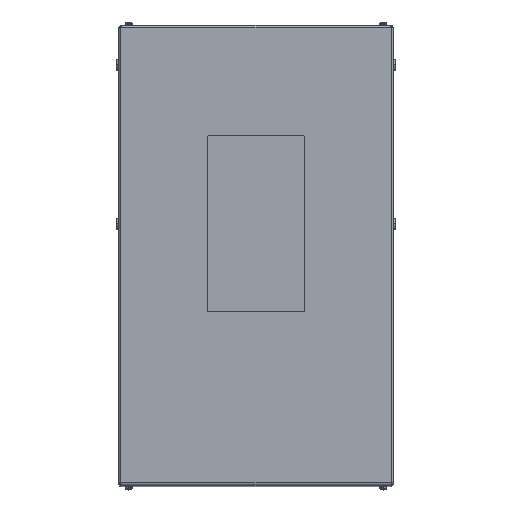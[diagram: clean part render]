
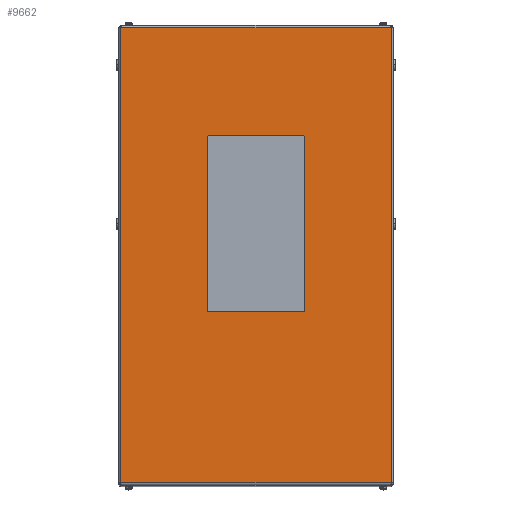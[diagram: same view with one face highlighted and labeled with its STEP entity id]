
A CAD part, top view. The second image highlights one B-rep face of the part: STEP entity #9662.
In plain terms, the highlighted planar face has unit normal (0, 0, 1).
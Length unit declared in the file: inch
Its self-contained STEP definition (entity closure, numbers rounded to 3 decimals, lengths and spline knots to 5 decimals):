
#74 = EDGE_CURVE ( 'NONE', #2713, #4117, #15720, .T. ) ;
#245 = DIRECTION ( 'NONE',  ( 1., 0., 0. ) ) ;
#378 = ORIENTED_EDGE ( 'NONE', *, *, #9704, .T. ) ;
#526 = DIRECTION ( 'NONE',  ( 0., -1., 0. ) ) ;
#574 = CARTESIAN_POINT ( 'NONE',  ( -13.8, 23.234, 33.5 ) ) ;
#759 = CARTESIAN_POINT ( 'NONE',  ( 13.8, 23.234, 33.5 ) ) ;
#955 = CARTESIAN_POINT ( 'NONE',  ( 14., 23.234, 33.5 ) ) ;
#1081 = DIRECTION ( 'NONE',  ( -1., 0., 0. ) ) ;
#1154 = EDGE_CURVE ( 'NONE', #6771, #3223, #2235, .T. ) ;
#1172 = CARTESIAN_POINT ( 'NONE',  ( -5., 12., 33.5 ) ) ;
#1332 = DIRECTION ( 'NONE',  ( 1., 0., 0. ) ) ;
#2008 = DIRECTION ( 'NONE',  ( 0., 0., 1. ) ) ;
#2131 = VECTOR ( 'NONE', #3102, 39.37008 ) ;
#2235 = LINE ( 'NONE', #20782, #6716 ) ;
#2639 = CARTESIAN_POINT ( 'NONE',  ( 5., 12., 33.5 ) ) ;
#2644 = CARTESIAN_POINT ( 'NONE',  ( -13.8, 23.5, 33.5 ) ) ;
#2713 = VERTEX_POINT ( 'NONE', #12707 ) ;
#2860 = EDGE_CURVE ( 'NONE', #19884, #7994, #22520, .T. ) ;
#2968 = VECTOR ( 'NONE', #6964, 39.37008 ) ;
#3102 = DIRECTION ( 'NONE',  ( 0., 1., 0. ) ) ;
#3223 = VERTEX_POINT ( 'NONE', #7868 ) ;
#3239 = CARTESIAN_POINT ( 'NONE',  ( 13.8, -23.234, 33.5 ) ) ;
#3396 = CARTESIAN_POINT ( 'NONE',  ( 5., 12., 33.5 ) ) ;
#4044 = ORIENTED_EDGE ( 'NONE', *, *, #2860, .F. ) ;
#4117 = VERTEX_POINT ( 'NONE', #17507 ) ;
#4365 = EDGE_LOOP ( 'NONE', ( #9410, #15407, #378, #19143 ) ) ;
#4790 = DIRECTION ( 'NONE',  ( 0., 0., -1. ) ) ;
#4809 = ORIENTED_EDGE ( 'NONE', *, *, #1154, .F. ) ;
#5145 = CARTESIAN_POINT ( 'NONE',  ( -4.75, -5.75, 33.5 ) ) ;
#5221 = AXIS2_PLACEMENT_3D ( 'NONE', #14314, #4790, #1081 ) ;
#5918 = DIRECTION ( 'NONE',  ( 0., 0., 1. ) ) ;
#6136 = LINE ( 'NONE', #11632, #9678 ) ;
#6193 = CARTESIAN_POINT ( 'NONE',  ( 5., -5.5, 33.5 ) ) ;
#6421 = CIRCLE ( 'NONE', #9088, 0.25 ) ;
#6716 = VECTOR ( 'NONE', #22577, 39.37008 ) ;
#6771 = VERTEX_POINT ( 'NONE', #15189 ) ;
#6789 = EDGE_CURVE ( 'NONE', #13631, #19428, #6136, .T. ) ;
#6834 = EDGE_CURVE ( 'NONE', #11479, #13631, #22654, .T. ) ;
#6964 = DIRECTION ( 'NONE',  ( 1., 0., 0. ) ) ;
#7066 = AXIS2_PLACEMENT_3D ( 'NONE', #21187, #20840, #1332 ) ;
#7096 = PLANE ( 'NONE',  #5221 ) ;
#7481 = EDGE_CURVE ( 'NONE', #19140, #11479, #15869, .T. ) ;
#7868 = CARTESIAN_POINT ( 'NONE',  ( -4.75, 12.25, 33.5 ) ) ;
#7883 = CIRCLE ( 'NONE', #19614, 0.25 ) ;
#7994 = VERTEX_POINT ( 'NONE', #3396 ) ;
#8725 = EDGE_CURVE ( 'NONE', #12864, #19884, #16910, .T. ) ;
#8801 = ORIENTED_EDGE ( 'NONE', *, *, #20607, .F. ) ;
#8858 = FACE_OUTER_BOUND ( 'NONE', #4365, .T. ) ;
#9088 = AXIS2_PLACEMENT_3D ( 'NONE', #13307, #5918, #15096 ) ;
#9410 = ORIENTED_EDGE ( 'NONE', *, *, #6834, .T. ) ;
#9662 = ADVANCED_FACE ( 'NONE', ( #17412, #8858 ), #7096, .F. ) ;
#9678 = VECTOR ( 'NONE', #20612, 39.37008 ) ;
#9704 = EDGE_CURVE ( 'NONE', #19428, #19140, #21176, .T. ) ;
#10118 = ORIENTED_EDGE ( 'NONE', *, *, #15302, .F. ) ;
#10825 = ORIENTED_EDGE ( 'NONE', *, *, #21974, .F. ) ;
#11184 = VERTEX_POINT ( 'NONE', #1172 ) ;
#11479 = VERTEX_POINT ( 'NONE', #574 ) ;
#11632 = CARTESIAN_POINT ( 'NONE',  ( 13.8, -23.234, 33.5 ) ) ;
#11674 = EDGE_CURVE ( 'NONE', #7994, #6771, #6421, .T. ) ;
#11954 = DIRECTION ( 'NONE',  ( -1., 0., 0. ) ) ;
#12619 = DIRECTION ( 'NONE',  ( 0., -1., 0. ) ) ;
#12640 = EDGE_LOOP ( 'NONE', ( #8801, #16046, #10825, #10118, #4809, #20455, #4044, #13493 ) ) ;
#12707 = CARTESIAN_POINT ( 'NONE',  ( -5., -5.5, 33.5 ) ) ;
#12864 = VERTEX_POINT ( 'NONE', #15363 ) ;
#13307 = CARTESIAN_POINT ( 'NONE',  ( 4.75, 12., 33.5 ) ) ;
#13349 = VECTOR ( 'NONE', #11954, 39.37008 ) ;
#13493 = ORIENTED_EDGE ( 'NONE', *, *, #8725, .F. ) ;
#13631 = VERTEX_POINT ( 'NONE', #15572 ) ;
#13679 = VECTOR ( 'NONE', #12619, 39.37008 ) ;
#14061 = LINE ( 'NONE', #5145, #2968 ) ;
#14314 = CARTESIAN_POINT ( 'NONE',  ( 14., 23.5, 33.5 ) ) ;
#15096 = DIRECTION ( 'NONE',  ( -1., 0., 0. ) ) ;
#15189 = CARTESIAN_POINT ( 'NONE',  ( 4.75, 12.25, 33.5 ) ) ;
#15302 = EDGE_CURVE ( 'NONE', #3223, #11184, #7883, .T. ) ;
#15363 = CARTESIAN_POINT ( 'NONE',  ( 4.75, -5.75, 33.5 ) ) ;
#15407 = ORIENTED_EDGE ( 'NONE', *, *, #6789, .T. ) ;
#15572 = CARTESIAN_POINT ( 'NONE',  ( -13.8, -23.234, 33.5 ) ) ;
#15649 = DIRECTION ( 'NONE',  ( 0., 1., 0. ) ) ;
#15720 = CIRCLE ( 'NONE', #16471, 0.25 ) ;
#15869 = LINE ( 'NONE', #955, #13349 ) ;
#16046 = ORIENTED_EDGE ( 'NONE', *, *, #74, .F. ) ;
#16471 = AXIS2_PLACEMENT_3D ( 'NONE', #22333, #22083, #19868 ) ;
#16701 = CARTESIAN_POINT ( 'NONE',  ( -4.75, 12., 33.5 ) ) ;
#16910 = CIRCLE ( 'NONE', #7066, 0.25 ) ;
#17412 = FACE_BOUND ( 'NONE', #12640, .T. ) ;
#17507 = CARTESIAN_POINT ( 'NONE',  ( -4.75, -5.75, 33.5 ) ) ;
#17640 = CARTESIAN_POINT ( 'NONE',  ( 13.8, 23.5, 33.5 ) ) ;
#18186 = VECTOR ( 'NONE', #15649, 39.37008 ) ;
#18285 = LINE ( 'NONE', #21711, #13679 ) ;
#18407 = VECTOR ( 'NONE', #526, 39.37008 ) ;
#19140 = VERTEX_POINT ( 'NONE', #759 ) ;
#19143 = ORIENTED_EDGE ( 'NONE', *, *, #7481, .T. ) ;
#19428 = VERTEX_POINT ( 'NONE', #3239 ) ;
#19614 = AXIS2_PLACEMENT_3D ( 'NONE', #16701, #2008, #245 ) ;
#19868 = DIRECTION ( 'NONE',  ( 1., 0., 0. ) ) ;
#19884 = VERTEX_POINT ( 'NONE', #6193 ) ;
#20455 = ORIENTED_EDGE ( 'NONE', *, *, #11674, .F. ) ;
#20607 = EDGE_CURVE ( 'NONE', #4117, #12864, #14061, .T. ) ;
#20612 = DIRECTION ( 'NONE',  ( 1., 0., 0. ) ) ;
#20782 = CARTESIAN_POINT ( 'NONE',  ( -4.75, 12.25, 33.5 ) ) ;
#20840 = DIRECTION ( 'NONE',  ( 0., 0., 1. ) ) ;
#21176 = LINE ( 'NONE', #17640, #2131 ) ;
#21187 = CARTESIAN_POINT ( 'NONE',  ( 4.75, -5.5, 33.5 ) ) ;
#21711 = CARTESIAN_POINT ( 'NONE',  ( -5., 12., 33.5 ) ) ;
#21974 = EDGE_CURVE ( 'NONE', #11184, #2713, #18285, .T. ) ;
#22083 = DIRECTION ( 'NONE',  ( 0., 0., 1. ) ) ;
#22333 = CARTESIAN_POINT ( 'NONE',  ( -4.75, -5.5, 33.5 ) ) ;
#22520 = LINE ( 'NONE', #2639, #18186 ) ;
#22577 = DIRECTION ( 'NONE',  ( -1., 0., 0. ) ) ;
#22654 = LINE ( 'NONE', #2644, #18407 ) ;
